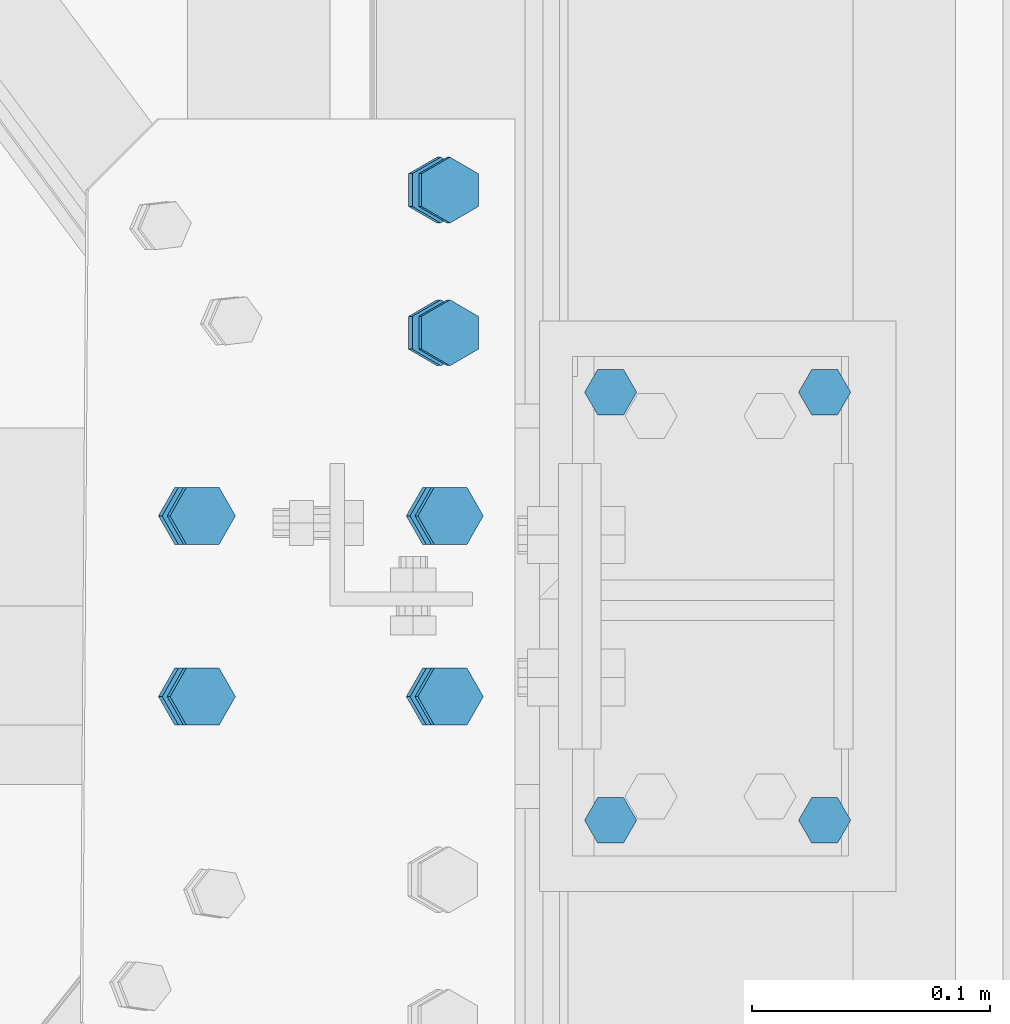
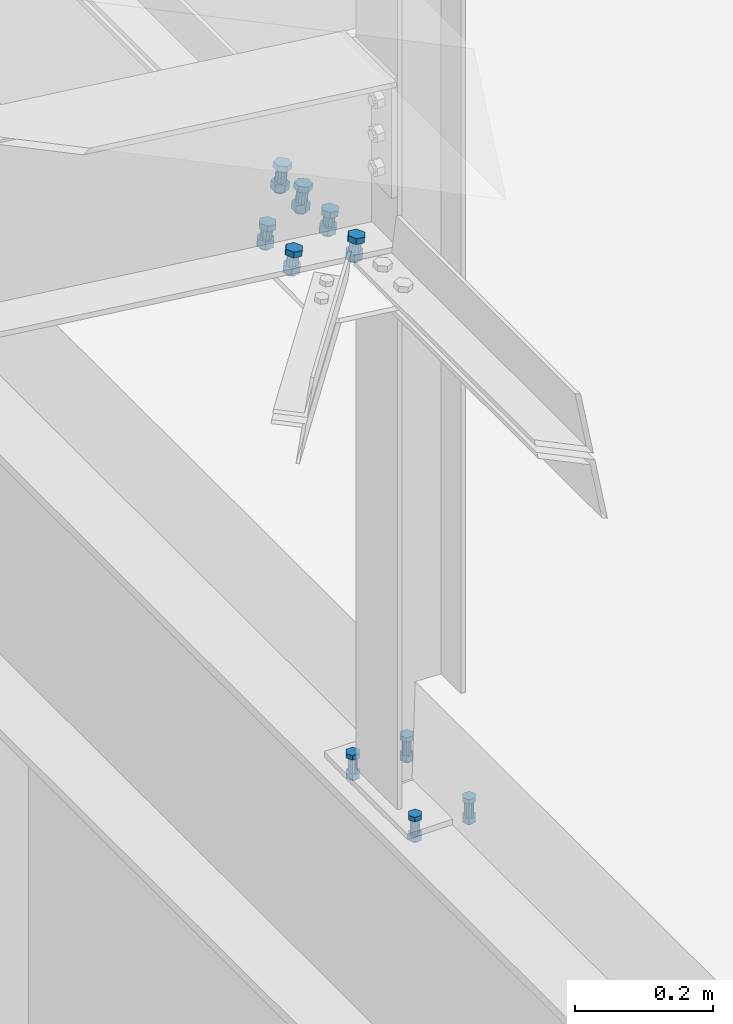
# One storey, part 382 of 3134: 3 mechanical fasteners, 3 elements without a shape of their own.
"""IFC2X3 building model written with IfcOpenShell, lengths in millimetres."""

from ifc_helpers import new_model, si_unit, frame, origin_with_axes, place, context, subcontext, project, spatial, faceted_brep, source, transform, mapped, material, type_object, element, aggregate, save


model = new_model("IFC2X3")

# Units and contexts
model_context = context("Model", 3, precision=1e-05, world=origin_with_axes())
body_context = subcontext(model_context, "Body", "Model", "MODEL_VIEW")
ifc_project = project(units=[si_unit("LENGTHUNIT", "METRE", prefix="MILLI"), si_unit("AREAUNIT", "SQUARE_METRE"), si_unit("VOLUMEUNIT", "CUBIC_METRE"), si_unit("MASSUNIT", "GRAM", prefix="KILO"), si_unit("TIMEUNIT", "SECOND"), si_unit("PLANEANGLEUNIT", "RADIAN"), si_unit("SOLIDANGLEUNIT", "STERADIAN"), si_unit("THERMODYNAMICTEMPERATUREUNIT", "DEGREE_CELSIUS"), si_unit("LUMINOUSINTENSITYUNIT", "LUMEN")], contexts=[model_context])

# Site, building, storey
site_placement = place(None, origin_with_axes())
site = spatial("IfcSite", under=ifc_project, at=site_placement, CompositionType="ELEMENT")
building_placement = place(site_placement, origin_with_axes())
building = spatial("IfcBuilding", under=site, at=building_placement, Name="Undefined", CompositionType="ELEMENT")
storey_placement = place(building_placement, origin_with_axes())
storey = spatial("IfcBuildingStorey", under=building, at=storey_placement, Name="Undefined", CompositionType="ELEMENT", Elevation=0.0)

# Assembly, mechanical fastener
assembly_1_placement = place(storey_placement, origin_with_axes())
assembly_1 = element("IfcElementAssembly", 1, at=assembly_1_placement, inside=storey, Name="IPE500", AssemblyPlace="NOTDEFINED", PredefinedType="RIGID_FRAME")
ifc_material = material(Name="8.8")
mechanical_fastener_type = type_object("IfcMechanicalFastenerType", Name="Bolt assembly")
shared_shape_1 = source(origin_with_axes(), body_context, "Body", "Brep", [
    faceted_brep([(10.9696551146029, -18.0, 0.0), (5.48482755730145, -18.0, 9.5), (-5.48482755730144, -18.0, 9.5), (-10.9696551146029, -18.0, 1.34339530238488e-15), (-5.48482755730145, -18.0, -9.5), (5.48482755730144, -18.0, -9.50000000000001), (5.48482755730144, -10.0, -9.50000000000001), (-5.48482755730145, -10.0, -9.5), (-10.9696551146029, -10.0, 1.34339530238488e-15), (-5.48482755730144, -10.0, 9.5), (5.48482755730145, -10.0, 9.5), (10.9696551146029, -10.0, 0.0), (6.0, -10.0, 0.0), (5.19615242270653, -10.0, 3.00000000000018), (2.99999999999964, -10.0, 5.19615242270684), (-6.21801588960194e-13, -10.0, 6.0), (-3.00000000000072, -10.0, 5.19615242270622), (-5.19615242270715, -10.0, 2.9999999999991), (-6.0, -10.0, -1.24360317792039e-12), (-5.19615242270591, -10.0, -3.00000000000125), (-2.99999999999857, -10.0, -5.19615242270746), (1.85874342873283e-12, -10.0, -6.0), (3.00000000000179, -10.0, -5.1961524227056), (5.19615242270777, -10.0, -2.99999999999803), (5.19615242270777, 30.0, -2.99999999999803), (3.00000000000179, 30.0, -5.1961524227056), (1.85874342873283e-12, 30.0, -6.0), (-2.99999999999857, 30.0, -5.19615242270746), (-5.19615242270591, 30.0, -3.00000000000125), (-6.0, 30.0, -1.24360317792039e-12), (-5.19615242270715, 30.0, 2.9999999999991), (-3.00000000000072, 30.0, 5.19615242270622), (-6.21801588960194e-13, 30.0, 6.0), (2.99999999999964, 30.0, 5.19615242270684), (5.19615242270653, 30.0, 3.00000000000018), (6.0, 30.0, 0.0), (10.9696551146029, 16.0, 0.0), (5.48482755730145, 16.0, 9.5), (-5.48482755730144, 16.0, 9.5), (-10.9696551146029, 16.0, 1.34339530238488e-15), (-5.48482755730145, 16.0, -9.5), (5.48482755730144, 16.0, -9.50000000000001), (5.48482755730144, 26.0000003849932, -9.50000000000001), (-5.48482755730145, 26.0000003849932, -9.5), (-10.9696551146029, 26.0000003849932, 1.34339530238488e-15), (-5.48482755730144, 26.0000003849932, 9.5), (5.48482755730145, 26.0000003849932, 9.5), (10.9696551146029, 26.0000003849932, 0.0)], [[[0, 1, 2, 3, 4, 5]], [[6, 7, 8, 9, 10, 11]], [[0, 11, 10, 1]], [[1, 10, 9, 2]], [[2, 9, 8, 3]], [[3, 8, 7, 4]], [[4, 7, 6, 5]], [[5, 6, 11, 0]], [[12, 13, 14, 15, 16, 17, 18, 19, 20, 21, 22, 23]], [[24, 25, 26, 27, 28, 29, 30, 31, 32, 33, 34, 35]], [[12, 35, 34, 13]], [[13, 34, 33, 14]], [[14, 33, 32, 15]], [[15, 32, 31, 16]], [[16, 31, 30, 17]], [[17, 30, 29, 18]], [[18, 29, 28, 19]], [[19, 28, 27, 20]], [[20, 27, 26, 21]], [[21, 26, 25, 22]], [[22, 25, 24, 23]], [[23, 24, 35, 12]], [[36, 37, 38, 39, 40, 41]], [[42, 43, 44, 45, 46, 47]], [[36, 47, 46, 37]], [[37, 46, 45, 38]], [[38, 45, 44, 39]], [[39, 44, 43, 40]], [[40, 43, 42, 41]], [[41, 42, 47, 36]]]),
    faceted_brep([(7.0, -9.89999913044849, 0.0), (6.06217782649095, -9.89999913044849, 3.50000000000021), (3.49999999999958, -9.89999913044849, 6.06217782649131), (-7.25435187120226e-13, -9.89999913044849, 7.0), (-3.50000000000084, -9.89999913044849, 6.06217782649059), (-6.06217782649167, -9.89999913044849, 3.49999999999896), (-7.0, -9.89999913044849, -1.45087037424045e-12), (-6.06217782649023, -9.89999913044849, -3.50000000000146), (-3.49999999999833, -9.89999913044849, -6.06217782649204), (2.1685340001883e-12, -9.89999913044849, -7.0), (3.50000000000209, -9.89999913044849, -6.06217782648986), (6.0621778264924, -9.89999913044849, -3.4999999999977), (6.0621778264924, 0.0999999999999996, -3.4999999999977), (3.50000000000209, 0.0999999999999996, -6.06217782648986), (2.1685340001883e-12, 0.0999999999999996, -7.0), (-3.49999999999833, 0.0999999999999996, -6.06217782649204), (-6.06217782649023, 0.0999999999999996, -3.50000000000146), (-7.0, 0.0999999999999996, -1.45087037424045e-12), (-6.06217782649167, 0.0999999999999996, 3.49999999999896), (-3.50000000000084, 0.0999999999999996, 6.06217782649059), (-7.25435187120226e-13, 0.0999999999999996, 7.0), (3.49999999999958, 0.0999999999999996, 6.06217782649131), (6.06217782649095, 0.0999999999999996, 3.50000000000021), (7.0, 0.0999999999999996, 0.0), (7.0, -0.1, 0.0), (6.06217782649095, -0.1, 3.50000000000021), (3.49999999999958, -0.1, 6.06217782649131), (-7.25435187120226e-13, -0.1, 7.0), (-3.50000000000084, -0.1, 6.06217782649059), (-6.06217782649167, -0.1, 3.49999999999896), (-7.0, -0.1, -1.45087037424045e-12), (-6.06217782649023, -0.1, -3.50000000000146), (-3.49999999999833, -0.1, -6.06217782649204), (2.1685340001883e-12, -0.1, -7.0), (3.50000000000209, -0.1, -6.06217782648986), (6.0621778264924, -0.1, -3.4999999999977), (6.0621778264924, 16.0000003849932, -3.4999999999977), (3.50000000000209, 16.0000003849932, -6.06217782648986), (2.1685340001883e-12, 16.0000003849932, -7.0), (-3.49999999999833, 16.0000003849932, -6.06217782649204), (-6.06217782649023, 16.0000003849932, -3.50000000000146), (-7.0, 16.0000003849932, -1.45087037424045e-12), (-6.06217782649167, 16.0000003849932, 3.49999999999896), (-3.50000000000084, 16.0000003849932, 6.06217782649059), (-7.25435187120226e-13, 16.0000003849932, 7.0), (3.49999999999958, 16.0000003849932, 6.06217782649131), (6.06217782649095, 16.0000003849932, 3.50000000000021), (7.0, 16.0000003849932, 0.0)], [[[0, 1, 2, 3, 4, 5, 6, 7, 8, 9, 10, 11]], [[12, 13, 14, 15, 16, 17, 18, 19, 20, 21, 22, 23]], [[0, 23, 22, 1]], [[1, 22, 21, 2]], [[2, 21, 20, 3]], [[3, 20, 19, 4]], [[4, 19, 18, 5]], [[5, 18, 17, 6]], [[6, 17, 16, 7]], [[7, 16, 15, 8]], [[8, 15, 14, 9]], [[9, 14, 13, 10]], [[10, 13, 12, 11]], [[11, 12, 23, 0]], [[24, 25, 26, 27, 28, 29, 30, 31, 32, 33, 34, 35]], [[36, 37, 38, 39, 40, 41, 42, 43, 44, 45, 46, 47]], [[24, 47, 46, 25]], [[25, 46, 45, 26]], [[26, 45, 44, 27]], [[27, 44, 43, 28]], [[28, 43, 42, 29]], [[29, 42, 41, 30]], [[30, 41, 40, 31]], [[31, 40, 39, 32]], [[32, 39, 38, 33]], [[33, 38, 37, 34]], [[34, 37, 36, 35]], [[35, 36, 47, 24]]]),
])
mechanical_fastener_1_placement = place(assembly_1_placement, frame((71770.0, 24649.9999999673, 4000.00000038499), z_axis=(0.0, 1.0, 0.0), x_axis=(1.0, 0.0, 0.0)))
mechanical_fastener_1 = element("IfcMechanicalFastener", 2, at=mechanical_fastener_1_placement, type_object=mechanical_fastener_type, material=ifc_material, Name="Bolt assembly", NominalDiameter=12.0, NominalLength=40.0, context=body_context, shape_type="MappedRepresentation", body=[
    mapped(shared_shape_1, transform((0.0, 0.0, -90.0))),
    mapped(shared_shape_1, transform((90.0, 0.0, -90.0))),
    mapped(shared_shape_1, transform((0.0, 0.0, 90.0))),
    mapped(shared_shape_1, transform((90.0, 0.0, 90.0))),
])
aggregate(assembly_1, [mechanical_fastener_1])

assembly_2_placement = place(storey_placement, origin_with_axes())
assembly_2 = element("IfcElementAssembly", 3, at=assembly_2_placement, inside=storey, AssemblyPlace="NOTDEFINED", PredefinedType="RIGID_FRAME")
shared_shape_2 = source(origin_with_axes(), body_context, "Body", "Brep", [
    faceted_brep([(13.856406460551, -21.0000017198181, 0.0), (6.92820323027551, -21.0000017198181, 12.0), (-6.92820323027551, -21.0000017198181, 12.0), (-13.856406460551, -21.0000017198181, 1.69692038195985e-15), (-6.92820323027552, -21.0000017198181, -12.0), (6.9282032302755, -21.0000017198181, -12.0), (6.9282032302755, -11.0000017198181, -12.0), (-6.92820323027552, -11.0000017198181, -12.0), (-13.856406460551, -11.0000017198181, 1.69692038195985e-15), (-6.92820323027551, -11.0000017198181, 12.0), (6.92820323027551, -11.0000017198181, 12.0), (13.856406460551, -11.0000017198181, 0.0), (8.0, -11.0000017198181, 0.0), (6.92820323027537, -11.0000017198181, 4.00000000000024), (3.99999999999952, -11.0000017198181, 6.92820323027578), (-8.29068785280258e-13, -11.0000017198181, 8.0), (-4.00000000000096, -11.0000017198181, 6.92820323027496), (-6.9282032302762, -11.0000017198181, 3.99999999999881), (-8.0, -11.0000017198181, -1.65813757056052e-12), (-6.92820323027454, -11.0000017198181, -4.00000000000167), (-3.99999999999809, -11.0000017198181, -6.92820323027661), (2.47832457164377e-12, -11.0000017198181, -8.0), (4.00000000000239, -11.0000017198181, -6.92820323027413), (6.92820323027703, -11.0000017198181, -3.99999999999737), (6.92820323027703, 29.0, -3.99999999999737), (4.00000000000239, 29.0, -6.92820323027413), (2.47832457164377e-12, 29.0, -8.0), (-3.99999999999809, 29.0, -6.92820323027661), (-6.92820323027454, 29.0, -4.00000000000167), (-8.0, 29.0, -1.65813757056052e-12), (-6.9282032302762, 29.0, 3.99999999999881), (-4.00000000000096, 29.0, 6.92820323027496), (-8.29068785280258e-13, 29.0, 8.0), (3.99999999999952, 29.0, 6.92820323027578), (6.92820323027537, 29.0, 4.00000000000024), (8.0, 29.0, 0.0), (13.856406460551, 10.9999982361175, 0.0), (6.92820323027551, 10.9999982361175, 12.0), (-6.92820323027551, 10.9999982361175, 12.0), (-13.856406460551, 10.9999982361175, 1.69692038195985e-15), (-6.92820323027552, 10.9999982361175, -12.0), (6.9282032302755, 10.9999982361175, -12.0), (6.9282032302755, 23.9999999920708, -12.0), (-6.92820323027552, 23.9999999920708, -12.0), (-13.856406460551, 23.9999999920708, 1.69692038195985e-15), (-6.92820323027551, 23.9999999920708, 12.0), (6.92820323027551, 23.9999999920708, 12.0), (13.856406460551, 23.9999999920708, 0.0)], [[[0, 1, 2, 3, 4, 5]], [[6, 7, 8, 9, 10, 11]], [[0, 11, 10, 1]], [[1, 10, 9, 2]], [[2, 9, 8, 3]], [[3, 8, 7, 4]], [[4, 7, 6, 5]], [[5, 6, 11, 0]], [[12, 13, 14, 15, 16, 17, 18, 19, 20, 21, 22, 23]], [[24, 25, 26, 27, 28, 29, 30, 31, 32, 33, 34, 35]], [[12, 35, 34, 13]], [[13, 34, 33, 14]], [[14, 33, 32, 15]], [[15, 32, 31, 16]], [[16, 31, 30, 17]], [[17, 30, 29, 18]], [[18, 29, 28, 19]], [[19, 28, 27, 20]], [[20, 27, 26, 21]], [[21, 26, 25, 22]], [[22, 25, 24, 23]], [[23, 24, 35, 12]], [[36, 37, 38, 39, 40, 41]], [[42, 43, 44, 45, 46, 47]], [[36, 47, 46, 37]], [[37, 46, 45, 38]], [[38, 45, 44, 39]], [[39, 44, 43, 40]], [[40, 43, 42, 41]], [[41, 42, 47, 36]]]),
    faceted_brep([(9.0, -10.9000017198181, 0.0), (7.79422863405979, -10.9000017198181, 4.50000000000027), (4.49999999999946, -10.9000017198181, 7.79422863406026), (-9.3270238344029e-13, -10.9000017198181, 9.0), (-4.50000000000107, -10.9000017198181, 7.79422863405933), (-7.79422863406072, -10.9000017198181, 4.49999999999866), (-9.0, -10.9000017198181, -1.86540476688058e-12), (-7.79422863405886, -10.9000017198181, -4.50000000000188), (-4.49999999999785, -10.9000017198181, -7.79422863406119), (2.78811514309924e-12, -10.9000017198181, -9.0), (4.50000000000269, -10.9000017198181, -7.7942286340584), (7.79422863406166, -10.9000017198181, -4.49999999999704), (7.79422863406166, -3.9, -4.49999999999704), (4.50000000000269, -3.9, -7.7942286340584), (2.78811514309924e-12, -3.9, -9.0), (-4.49999999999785, -3.9, -7.79422863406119), (-7.79422863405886, -3.9, -4.50000000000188), (-9.0, -3.9, -1.86540476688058e-12), (-7.79422863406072, -3.9, 4.49999999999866), (-4.50000000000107, -3.9, 7.79422863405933), (-9.3270238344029e-13, -3.9, 9.0), (4.49999999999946, -3.9, 7.79422863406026), (7.79422863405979, -3.9, 4.50000000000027), (9.0, -3.9, 0.0), (9.0, 3.9, 0.0), (7.79422863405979, 3.9, 4.50000000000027), (4.49999999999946, 3.9, 7.79422863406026), (-9.3270238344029e-13, 3.9, 9.0), (-4.50000000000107, 3.9, 7.79422863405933), (-7.79422863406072, 3.9, 4.49999999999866), (-9.0, 3.9, -1.86540476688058e-12), (-7.79422863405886, 3.9, -4.50000000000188), (-4.49999999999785, 3.9, -7.79422863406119), (2.78811514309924e-12, 3.9, -9.0), (4.50000000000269, 3.9, -7.7942286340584), (7.79422863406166, 3.9, -4.49999999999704), (7.79422863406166, 10.9999982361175, -4.49999999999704), (4.50000000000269, 10.9999982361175, -7.7942286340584), (2.78811514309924e-12, 10.9999982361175, -9.0), (-4.49999999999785, 10.9999982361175, -7.79422863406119), (-7.79422863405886, 10.9999982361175, -4.50000000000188), (-9.0, 10.9999982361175, -1.86540476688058e-12), (-7.79422863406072, 10.9999982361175, 4.49999999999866), (-4.50000000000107, 10.9999982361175, 7.79422863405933), (-9.3270238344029e-13, 10.9999982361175, 9.0), (4.49999999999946, 10.9999982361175, 7.79422863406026), (7.79422863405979, 10.9999982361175, 4.50000000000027), (9.0, 10.9999982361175, 0.0), (9.0, -3.99999624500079, 0.0), (7.79422863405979, -3.99999624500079, 4.50000000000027), (4.49999999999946, -3.99999624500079, 7.79422863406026), (-9.3270238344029e-13, -3.99999624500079, 9.0), (-4.50000000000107, -3.99999624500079, 7.79422863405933), (-7.79422863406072, -3.99999624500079, 4.49999999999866), (-9.0, -3.99999624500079, -1.86540476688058e-12), (-7.79422863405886, -3.99999624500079, -4.50000000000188), (-4.49999999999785, -3.99999624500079, -7.79422863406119), (2.78811514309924e-12, -3.99999624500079, -9.0), (4.50000000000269, -3.99999624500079, -7.7942286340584), (7.79422863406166, -3.99999624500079, -4.49999999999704), (7.79422863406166, 4.00000375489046, -4.49999999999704), (4.50000000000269, 4.00000375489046, -7.7942286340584), (2.78811514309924e-12, 4.00000375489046, -9.0), (-4.49999999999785, 4.00000375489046, -7.79422863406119), (-7.79422863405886, 4.00000375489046, -4.50000000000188), (-9.0, 4.00000375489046, -1.86540476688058e-12), (-7.79422863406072, 4.00000375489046, 4.49999999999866), (-4.50000000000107, 4.00000375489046, 7.79422863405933), (-9.3270238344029e-13, 4.00000375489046, 9.0), (4.49999999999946, 4.00000375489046, 7.79422863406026), (7.79422863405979, 4.00000375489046, 4.50000000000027), (9.0, 4.00000375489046, 0.0)], [[[0, 1, 2, 3, 4, 5, 6, 7, 8, 9, 10, 11]], [[12, 13, 14, 15, 16, 17, 18, 19, 20, 21, 22, 23]], [[0, 23, 22, 1]], [[1, 22, 21, 2]], [[2, 21, 20, 3]], [[3, 20, 19, 4]], [[4, 19, 18, 5]], [[5, 18, 17, 6]], [[6, 17, 16, 7]], [[7, 16, 15, 8]], [[8, 15, 14, 9]], [[9, 14, 13, 10]], [[10, 13, 12, 11]], [[11, 12, 23, 0]], [[24, 25, 26, 27, 28, 29, 30, 31, 32, 33, 34, 35]], [[36, 37, 38, 39, 40, 41, 42, 43, 44, 45, 46, 47]], [[24, 47, 46, 25]], [[25, 46, 45, 26]], [[26, 45, 44, 27]], [[27, 44, 43, 28]], [[28, 43, 42, 29]], [[29, 42, 41, 30]], [[30, 41, 40, 31]], [[31, 40, 39, 32]], [[32, 39, 38, 33]], [[33, 38, 37, 34]], [[34, 37, 36, 35]], [[35, 36, 47, 24]], [[48, 49, 50, 51, 52, 53, 54, 55, 56, 57, 58, 59]], [[60, 61, 62, 63, 64, 65, 66, 67, 68, 69, 70, 71]], [[48, 71, 70, 49]], [[49, 70, 69, 50]], [[50, 69, 68, 51]], [[51, 68, 67, 52]], [[52, 67, 66, 53]], [[53, 66, 65, 54]], [[54, 65, 64, 55]], [[55, 64, 63, 56]], [[56, 63, 62, 57]], [[57, 62, 61, 58]], [[58, 61, 60, 59]], [[59, 60, 71, 48]]]),
])
mechanical_fastener_2_placement = place(assembly_2_placement, frame((71699.8954149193, 24764.9999997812, 5008.88935537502), z_axis=(-0.992623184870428, 0.0, 0.121240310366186), x_axis=(0.0, 1.0, 0.0)))
mechanical_fastener_2 = element("IfcMechanicalFastener", 4, at=mechanical_fastener_2_placement, type_object=mechanical_fastener_type, material=ifc_material, Name="Bolt assembly", NominalDiameter=16.0, NominalLength=40.0, context=body_context, shape_type="MappedRepresentation", body=[
    mapped(shared_shape_2, transform((0.0, 0.0, 0.0))),
    mapped(shared_shape_2, transform((59.9999999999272, 0.0, 5.40239852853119e-10))),
])
aggregate(assembly_2, [mechanical_fastener_2])

assembly_3_placement = place(storey_placement, origin_with_axes())
assembly_3 = element("IfcElementAssembly", 5, at=assembly_3_placement, inside=storey, Name="PL8", AssemblyPlace="NOTDEFINED", PredefinedType="RIGID_FRAME")
shared_shape_3 = source(origin_with_axes(), body_context, "Body", "Brep", [
    faceted_brep([(13.856406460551, -23.202981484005, 0.0), (6.92820323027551, -23.202981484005, 12.0), (-6.92820323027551, -23.202981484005, 12.0), (-13.856406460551, -23.202981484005, 1.69692038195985e-15), (-6.92820323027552, -23.202981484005, -12.0), (6.9282032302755, -23.202981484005, -12.0), (6.9282032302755, -13.202981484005, -12.0), (-6.92820323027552, -13.202981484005, -12.0), (-13.856406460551, -13.202981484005, 1.69692038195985e-15), (-6.92820323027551, -13.202981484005, 12.0), (6.92820323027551, -13.202981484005, 12.0), (13.856406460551, -13.202981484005, 0.0), (8.0, -13.202981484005, 0.0), (6.92820323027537, -13.202981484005, 4.00000000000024), (3.99999999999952, -13.202981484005, 6.92820323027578), (-8.29068785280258e-13, -13.202981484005, 8.0), (-4.00000000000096, -13.202981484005, 6.92820323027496), (-6.9282032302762, -13.202981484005, 3.99999999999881), (-8.0, -13.202981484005, -1.65813757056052e-12), (-6.92820323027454, -13.202981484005, -4.00000000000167), (-3.99999999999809, -13.202981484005, -6.92820323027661), (2.47832457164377e-12, -13.202981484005, -8.0), (4.00000000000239, -13.202981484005, -6.92820323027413), (6.92820323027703, -13.202981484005, -3.99999999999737), (6.92820323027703, 21.797018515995, -3.99999999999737), (4.00000000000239, 21.797018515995, -6.92820323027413), (2.47832457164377e-12, 21.797018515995, -8.0), (-3.99999999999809, 21.797018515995, -6.92820323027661), (-6.92820323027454, 21.797018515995, -4.00000000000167), (-8.0, 21.797018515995, -1.65813757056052e-12), (-6.9282032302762, 21.797018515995, 3.99999999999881), (-4.00000000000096, 21.797018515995, 6.92820323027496), (-8.29068785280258e-13, 21.797018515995, 8.0), (3.99999999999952, 21.797018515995, 6.92820323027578), (6.92820323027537, 21.797018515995, 4.00000000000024), (8.0, 21.797018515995, 0.0), (13.856406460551, 3.99999999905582, 0.0), (6.92820323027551, 3.99999999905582, 12.0), (-6.92820323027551, 3.99999999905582, 12.0), (-13.856406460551, 3.99999999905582, 1.69692038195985e-15), (-6.92820323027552, 3.99999999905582, -12.0), (6.9282032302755, 3.99999999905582, -12.0), (6.9282032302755, 16.9999999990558, -12.0), (-6.92820323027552, 16.9999999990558, -12.0), (-13.856406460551, 16.9999999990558, 1.69692038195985e-15), (-6.92820323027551, 16.9999999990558, 12.0), (6.92820323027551, 16.9999999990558, 12.0), (13.856406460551, 16.9999999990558, 0.0)], [[[0, 1, 2, 3, 4, 5]], [[6, 7, 8, 9, 10, 11]], [[0, 11, 10, 1]], [[1, 10, 9, 2]], [[2, 9, 8, 3]], [[3, 8, 7, 4]], [[4, 7, 6, 5]], [[5, 6, 11, 0]], [[12, 13, 14, 15, 16, 17, 18, 19, 20, 21, 22, 23]], [[24, 25, 26, 27, 28, 29, 30, 31, 32, 33, 34, 35]], [[12, 35, 34, 13]], [[13, 34, 33, 14]], [[14, 33, 32, 15]], [[15, 32, 31, 16]], [[16, 31, 30, 17]], [[17, 30, 29, 18]], [[18, 29, 28, 19]], [[19, 28, 27, 20]], [[20, 27, 26, 21]], [[21, 26, 25, 22]], [[22, 25, 24, 23]], [[23, 24, 35, 12]], [[36, 37, 38, 39, 40, 41]], [[42, 43, 44, 45, 46, 47]], [[36, 47, 46, 37]], [[37, 46, 45, 38]], [[38, 45, 44, 39]], [[39, 44, 43, 40]], [[40, 43, 42, 41]], [[41, 42, 47, 36]]]),
    faceted_brep([(9.0, -13.102981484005, 0.0), (7.79422863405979, -13.102981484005, 4.50000000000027), (4.49999999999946, -13.102981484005, 7.79422863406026), (-9.3270238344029e-13, -13.102981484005, 9.0), (-4.50000000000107, -13.102981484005, 7.79422863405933), (-7.79422863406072, -13.102981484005, 4.49999999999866), (-9.0, -13.102981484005, -1.86540476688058e-12), (-7.79422863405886, -13.102981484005, -4.50000000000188), (-4.49999999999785, -13.102981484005, -7.79422863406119), (2.78811514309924e-12, -13.102981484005, -9.0), (4.50000000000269, -13.102981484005, -7.7942286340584), (7.79422863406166, -13.102981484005, -4.49999999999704), (7.79422863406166, -3.90298167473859, -4.49999999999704), (4.50000000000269, -3.90298167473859, -7.7942286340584), (2.78811514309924e-12, -3.90298167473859, -9.0), (-4.49999999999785, -3.90298167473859, -7.79422863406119), (-7.79422863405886, -3.90298167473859, -4.50000000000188), (-9.0, -3.90298167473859, -1.86540476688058e-12), (-7.79422863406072, -3.90298167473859, 4.49999999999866), (-4.50000000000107, -3.90298167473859, 7.79422863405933), (-9.3270238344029e-13, -3.90298167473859, 9.0), (4.49999999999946, -3.90298167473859, 7.79422863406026), (7.79422863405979, -3.90298167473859, 4.50000000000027), (9.0, -3.90298167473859, 0.0), (9.0, -4.10000000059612, 0.0), (7.79422863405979, -4.10000000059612, 4.50000000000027), (4.49999999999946, -4.10000000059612, 7.79422863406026), (-9.3270238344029e-13, -4.10000000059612, 9.0), (-4.50000000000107, -4.10000000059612, 7.79422863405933), (-7.79422863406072, -4.10000000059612, 4.49999999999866), (-9.0, -4.10000000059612, -1.86540476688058e-12), (-7.79422863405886, -4.10000000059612, -4.50000000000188), (-4.49999999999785, -4.10000000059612, -7.79422863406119), (2.78811514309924e-12, -4.10000000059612, -9.0), (4.50000000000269, -4.10000000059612, -7.7942286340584), (7.79422863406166, -4.10000000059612, -4.49999999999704), (7.79422863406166, 4.00000375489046, -4.49999999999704), (4.50000000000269, 4.00000375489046, -7.7942286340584), (2.78811514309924e-12, 4.00000375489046, -9.0), (-4.49999999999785, 4.00000375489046, -7.79422863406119), (-7.79422863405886, 4.00000375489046, -4.50000000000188), (-9.0, 4.00000375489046, -1.86540476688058e-12), (-7.79422863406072, 4.00000375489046, 4.49999999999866), (-4.50000000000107, 4.00000375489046, 7.79422863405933), (-9.3270238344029e-13, 4.00000375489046, 9.0), (4.49999999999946, 4.00000375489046, 7.79422863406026), (7.79422863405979, 4.00000375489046, 4.50000000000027), (9.0, 4.00000375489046, 0.0)], [[[0, 1, 2, 3, 4, 5, 6, 7, 8, 9, 10, 11]], [[12, 13, 14, 15, 16, 17, 18, 19, 20, 21, 22, 23]], [[0, 23, 22, 1]], [[1, 22, 21, 2]], [[2, 21, 20, 3]], [[3, 20, 19, 4]], [[4, 19, 18, 5]], [[5, 18, 17, 6]], [[6, 17, 16, 7]], [[7, 16, 15, 8]], [[8, 15, 14, 9]], [[9, 14, 13, 10]], [[10, 13, 12, 11]], [[11, 12, 23, 0]], [[24, 25, 26, 27, 28, 29, 30, 31, 32, 33, 34, 35]], [[36, 37, 38, 39, 40, 41, 42, 43, 44, 45, 46, 47]], [[24, 47, 46, 25]], [[25, 46, 45, 26]], [[26, 45, 44, 27]], [[27, 44, 43, 28]], [[28, 43, 42, 29]], [[29, 42, 41, 30]], [[30, 41, 40, 31]], [[31, 40, 39, 32]], [[32, 39, 38, 33]], [[33, 38, 37, 34]], [[34, 37, 36, 35]], [[35, 36, 47, 24]]]),
])
mechanical_fastener_3_placement = place(assembly_3_placement, frame((71699.8954148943, 24649.9999997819, 5008.88935537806), z_axis=(0.0, -1.0, 0.0), x_axis=(-0.992623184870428, 0.0, 0.121240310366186)))
mechanical_fastener_3 = element("IfcMechanicalFastener", 6, at=mechanical_fastener_3_placement, type_object=mechanical_fastener_type, material=ifc_material, Name="Bolt assembly", NominalDiameter=16.0, NominalLength=35.0, context=body_context, shape_type="MappedRepresentation", body=[
    mapped(shared_shape_3, transform((0.0, 0.0, -38.0))),
    mapped(shared_shape_3, transform((104.999999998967, -8.89485818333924e-10, -38.0))),
    mapped(shared_shape_3, transform((0.0, 0.0, 38.0))),
    mapped(shared_shape_3, transform((104.999999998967, -8.89485818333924e-10, 38.0))),
])
aggregate(assembly_3, [mechanical_fastener_3])

save(model, "model.ifc")
